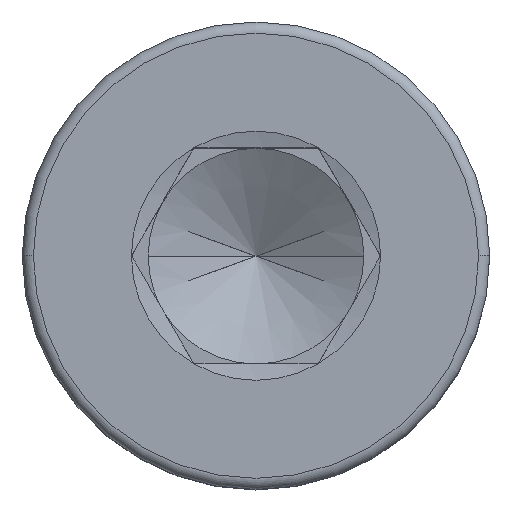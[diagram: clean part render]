
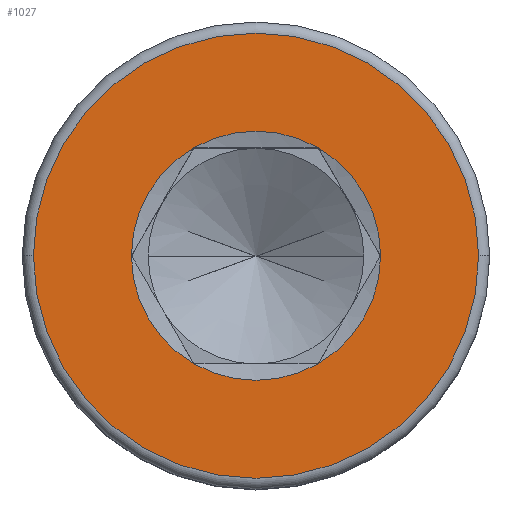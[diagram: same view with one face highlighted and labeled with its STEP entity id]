
A CAD part, top view. The second image highlights one B-rep face of the part: STEP entity #1027.
In plain terms, the highlighted planar face has unit normal (0, 0, 1).
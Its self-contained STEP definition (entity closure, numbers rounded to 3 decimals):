
#18 = CARTESIAN_POINT ( 'NONE',  ( 0., 0., 8. ) ) ;
#28 = DIRECTION ( 'NONE',  ( 0., 0., 1. ) ) ;
#57 = EDGE_CURVE ( 'NONE', #998, #545, #1539, .T. ) ;
#75 = DIRECTION ( 'NONE',  ( 0., 0., 1. ) ) ;
#104 = ORIENTED_EDGE ( 'NONE', *, *, #151, .F. ) ;
#151 = EDGE_CURVE ( 'NONE', #710, #788, #409, .T. ) ;
#193 = DIRECTION ( 'NONE',  ( 1., 0., 0. ) ) ;
#194 = EDGE_CURVE ( 'NONE', #410, #1243, #1171, .T. ) ;
#207 = DIRECTION ( 'NONE',  ( 1., 0., 0. ) ) ;
#231 = DIRECTION ( 'NONE',  ( 0., 0., 1. ) ) ;
#327 = CIRCLE ( 'NONE', #1151, 3.464 ) ;
#409 = CIRCLE ( 'NONE', #711, 3.464 ) ;
#410 = VERTEX_POINT ( 'NONE', #924 ) ;
#415 = CIRCLE ( 'NONE', #775, 3.464 ) ;
#433 = ORIENTED_EDGE ( 'NONE', *, *, #487, .F. ) ;
#440 = CARTESIAN_POINT ( 'NONE',  ( -6.19, 0., 8. ) ) ;
#458 = EDGE_CURVE ( 'NONE', #881, #710, #476, .T. ) ;
#476 = CIRCLE ( 'NONE', #1173, 3.464 ) ;
#481 = DIRECTION ( 'NONE',  ( 0., 0., 1. ) ) ;
#487 = EDGE_CURVE ( 'NONE', #1243, #1526, #1736, .T. ) ;
#516 = DIRECTION ( 'NONE',  ( 1., 0., 0. ) ) ;
#545 = VERTEX_POINT ( 'NONE', #819 ) ;
#553 = DIRECTION ( 'NONE',  ( 0., 0., 1. ) ) ;
#566 = CIRCLE ( 'NONE', #974, 6.19 ) ;
#589 = CARTESIAN_POINT ( 'NONE',  ( 0., 0., 8. ) ) ;
#600 = CARTESIAN_POINT ( 'NONE',  ( -1.732, -3., 8. ) ) ;
#687 = AXIS2_PLACEMENT_3D ( 'NONE', #589, #553, #1525 ) ;
#694 = EDGE_CURVE ( 'NONE', #788, #410, #415, .T. ) ;
#710 = VERTEX_POINT ( 'NONE', #1019 ) ;
#711 = AXIS2_PLACEMENT_3D ( 'NONE', #1448, #897, #193 ) ;
#731 = DIRECTION ( 'NONE',  ( 1., 0., 0. ) ) ;
#739 = CARTESIAN_POINT ( 'NONE',  ( 0., 0., 8. ) ) ;
#743 = CARTESIAN_POINT ( 'NONE',  ( -1.732, 3., 8. ) ) ;
#775 = AXIS2_PLACEMENT_3D ( 'NONE', #1675, #1029, #1290 ) ;
#788 = VERTEX_POINT ( 'NONE', #743 ) ;
#798 = EDGE_LOOP ( 'NONE', ( #1505, #1053 ) ) ;
#819 = CARTESIAN_POINT ( 'NONE',  ( 6.19, 0., 8. ) ) ;
#822 = AXIS2_PLACEMENT_3D ( 'NONE', #739, #28, #1551 ) ;
#852 = ORIENTED_EDGE ( 'NONE', *, *, #694, .F. ) ;
#881 = VERTEX_POINT ( 'NONE', #1097 ) ;
#882 = AXIS2_PLACEMENT_3D ( 'NONE', #1055, #920, #1073 ) ;
#897 = DIRECTION ( 'NONE',  ( 0., 0., 1. ) ) ;
#907 = EDGE_CURVE ( 'NONE', #1526, #881, #327, .T. ) ;
#920 = DIRECTION ( 'NONE',  ( 0., 0., 1. ) ) ;
#923 = ORIENTED_EDGE ( 'NONE', *, *, #458, .F. ) ;
#924 = CARTESIAN_POINT ( 'NONE',  ( -3.464, 0., 8. ) ) ;
#944 = EDGE_LOOP ( 'NONE', ( #923, #1249, #433, #1490, #852, #104 ) ) ;
#974 = AXIS2_PLACEMENT_3D ( 'NONE', #18, #75, #207 ) ;
#998 = VERTEX_POINT ( 'NONE', #440 ) ;
#1018 = DIRECTION ( 'NONE',  ( 0., 0., 1. ) ) ;
#1019 = CARTESIAN_POINT ( 'NONE',  ( 1.732, 3., 8. ) ) ;
#1027 = ADVANCED_FACE ( 'NONE', ( #1653, #1238 ), #1543, .T. ) ;
#1029 = DIRECTION ( 'NONE',  ( 0., 0., 1. ) ) ;
#1041 = DIRECTION ( 'NONE',  ( 1., 0., 0. ) ) ;
#1053 = ORIENTED_EDGE ( 'NONE', *, *, #57, .T. ) ;
#1055 = CARTESIAN_POINT ( 'NONE',  ( 0., 0., 8. ) ) ;
#1073 = DIRECTION ( 'NONE',  ( 1., 0., 0. ) ) ;
#1092 = EDGE_CURVE ( 'NONE', #545, #998, #566, .T. ) ;
#1097 = CARTESIAN_POINT ( 'NONE',  ( 3.464, 0., 8. ) ) ;
#1151 = AXIS2_PLACEMENT_3D ( 'NONE', #1351, #481, #1041 ) ;
#1171 = CIRCLE ( 'NONE', #1734, 3.464 ) ;
#1173 = AXIS2_PLACEMENT_3D ( 'NONE', #1725, #231, #516 ) ;
#1238 = FACE_BOUND ( 'NONE', #944, .T. ) ;
#1243 = VERTEX_POINT ( 'NONE', #600 ) ;
#1249 = ORIENTED_EDGE ( 'NONE', *, *, #907, .F. ) ;
#1290 = DIRECTION ( 'NONE',  ( 1., 0., 0. ) ) ;
#1351 = CARTESIAN_POINT ( 'NONE',  ( 0., 0., 8. ) ) ;
#1415 = CARTESIAN_POINT ( 'NONE',  ( 1.732, -3., 8. ) ) ;
#1448 = CARTESIAN_POINT ( 'NONE',  ( 0., 0., 8. ) ) ;
#1490 = ORIENTED_EDGE ( 'NONE', *, *, #194, .F. ) ;
#1505 = ORIENTED_EDGE ( 'NONE', *, *, #1092, .T. ) ;
#1525 = DIRECTION ( 'NONE',  ( 1., 0., 0. ) ) ;
#1526 = VERTEX_POINT ( 'NONE', #1415 ) ;
#1539 = CIRCLE ( 'NONE', #822, 6.19 ) ;
#1543 = PLANE ( 'NONE',  #687 ) ;
#1551 = DIRECTION ( 'NONE',  ( 1., 0., 0. ) ) ;
#1653 = FACE_OUTER_BOUND ( 'NONE', #798, .T. ) ;
#1675 = CARTESIAN_POINT ( 'NONE',  ( 0., 0., 8. ) ) ;
#1684 = CARTESIAN_POINT ( 'NONE',  ( 0., 0., 8. ) ) ;
#1725 = CARTESIAN_POINT ( 'NONE',  ( 0., 0., 8. ) ) ;
#1734 = AXIS2_PLACEMENT_3D ( 'NONE', #1684, #1018, #731 ) ;
#1736 = CIRCLE ( 'NONE', #882, 3.464 ) ;
